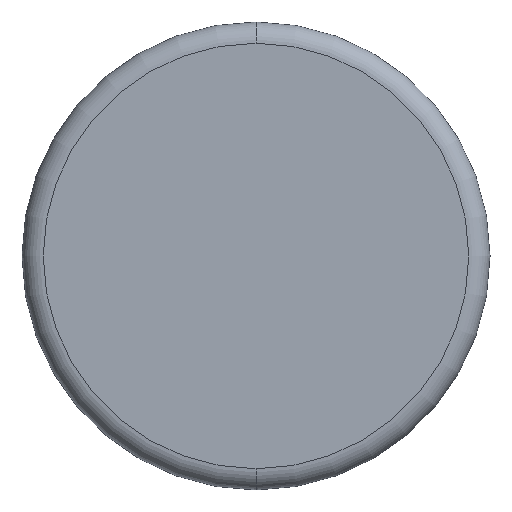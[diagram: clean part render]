
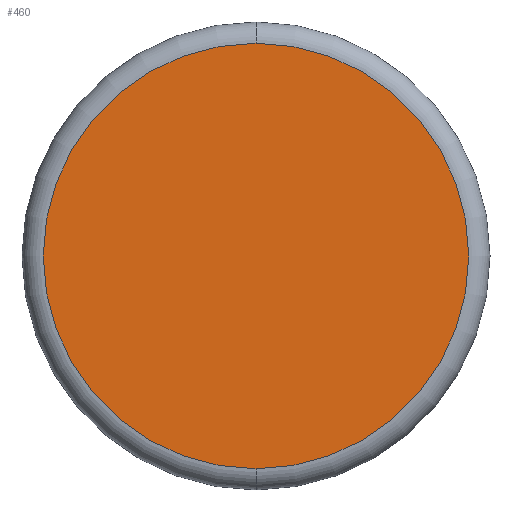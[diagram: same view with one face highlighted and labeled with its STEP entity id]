
A CAD part, left-side view. The second image highlights one B-rep face of the part: STEP entity #460.
In plain terms, the highlighted planar face has unit normal (-1, 0, 0).
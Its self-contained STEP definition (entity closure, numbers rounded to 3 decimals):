
#49=CARTESIAN_POINT('',(-21.1,0.,-36.));
#50=VERTEX_POINT('',#49);
#60=CARTESIAN_POINT('',(-21.1,36.,0.0));
#61=VERTEX_POINT('',#60);
#62=CARTESIAN_POINT('',(-21.1,0.,0.0));
#63=DIRECTION('',(1.0,0.0,0.0));
#64=DIRECTION('',(0.0,1.0,0.0));
#65=AXIS2_PLACEMENT_3D('',#62,#63,#64);
#66=CIRCLE('',#65,36.);
#67=EDGE_CURVE('',#50,#61,#66,.T.);
#69=CARTESIAN_POINT('',(-21.1,0.,36.));
#70=VERTEX_POINT('',#69);
#71=CARTESIAN_POINT('',(-21.1,0.,0.0));
#72=DIRECTION('',(1.0,0.0,0.0));
#73=DIRECTION('',(0.0,1.0,0.0));
#74=AXIS2_PLACEMENT_3D('',#71,#72,#73);
#75=CIRCLE('',#74,36.);
#76=EDGE_CURVE('',#61,#70,#75,.T.);
#444=CARTESIAN_POINT('',(-21.1,18.0,0.0));
#445=DIRECTION('',(-1.0,0.0,0.0));
#446=DIRECTION('',(0.0,0.0,1.0));
#447=AXIS2_PLACEMENT_3D('',#444,#445,#446);
#448=PLANE('',#447);
#449=ORIENTED_EDGE('',*,*,#76,.F.);
#450=ORIENTED_EDGE('',*,*,#67,.F.);
#451=CARTESIAN_POINT('',(-21.1,0.,0.0));
#452=DIRECTION('',(1.0,0.0,0.0));
#453=DIRECTION('',(0.0,1.0,0.0));
#454=AXIS2_PLACEMENT_3D('',#451,#452,#453);
#455=CIRCLE('',#454,36.);
#456=EDGE_CURVE('',#70,#50,#455,.T.);
#457=ORIENTED_EDGE('',*,*,#456,.F.);
#458=EDGE_LOOP('',(#449,#450,#457));
#459=FACE_OUTER_BOUND('',#458,.T.);
#460=ADVANCED_FACE('',(#459),#448,.T.);
